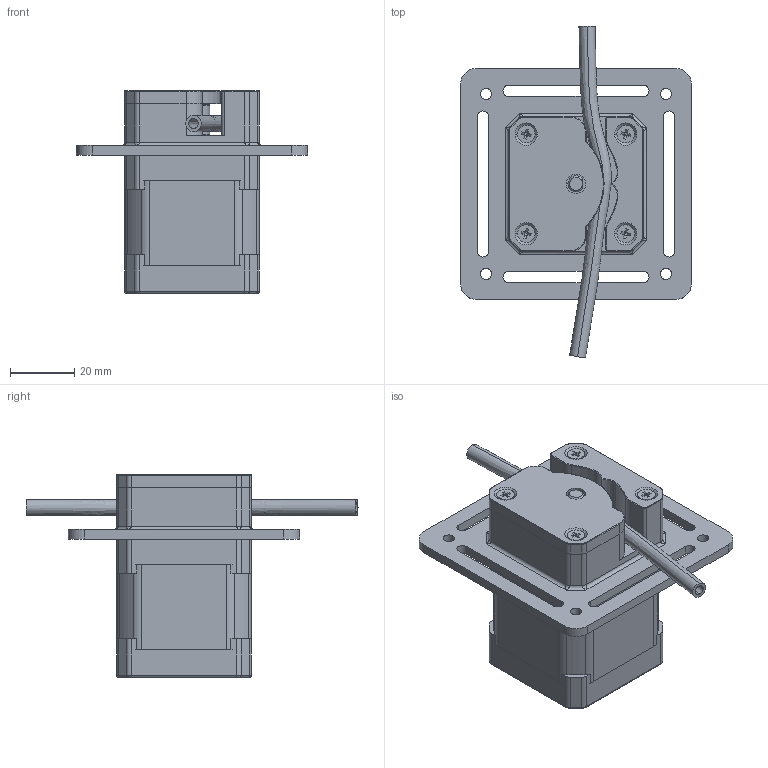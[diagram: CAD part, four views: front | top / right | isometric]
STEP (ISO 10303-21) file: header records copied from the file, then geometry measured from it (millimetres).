
FILE_DESCRIPTION (( 'STEP AP214' ), '1' );
FILE_NAME ('Valve.STEP', '2015-04-30T20:05:03', ( '' ), ( '' ), 'SwSTEP 2.0', 'SolidWorks 2014', '' );
FILE_SCHEMA (( 'AUTOMOTIVE_DESIGN' ));
Length unit declared in the file: millimetre
Products named in the file (11): Stepper-Upper; radial ball bearing_68_skf_SKF - 625 - 8,DE,NC,8_68; Stepper-Bottom; cr flat head screw_is_IS 7485 - M3 x 25 - Z -- 25N; Stepper-Middle; Valve-CAM; Tube; Valve; Valve-Cover; Stepper-Shaft; Valve-Body
Assembly tree (18 placements, depth 2):
  Valve
    Stepper-Bottom
    Stepper-Middle
    Stepper-Shaft
    Stepper-Upper
    radial ball bearing_68_skf_SKF - 625 - 8,DE,NC,8_68  x2
    cr flat head screw_is_IS 7485 - M3 x 25 - Z -- 25N  x8
    Tube
    Valve-Body
    Valve-CAM
    Valve-Cover
Bounding box: 72 x 103.41 x 63 mm (x, y, z)
Volume: 91452.6 mm3; surface area: 47759.5 mm2
Topology: 18 solids, 18 shells, 820 faces, 2180 edges, 1326 vertices
Faces by surface type: plane 271, cylinder 241, cone 137, torus 122, sphere 33, bspline 16
Entity records: 21069 total; most frequent: CARTESIAN_POINT 8794, DIRECTION 2596, ORIENTED_EDGE 2440, EDGE_CURVE 1220, AXIS2_PLACEMENT_3D 1064, VERTEX_POINT 764, CIRCLE 590, EDGE_LOOP 546
